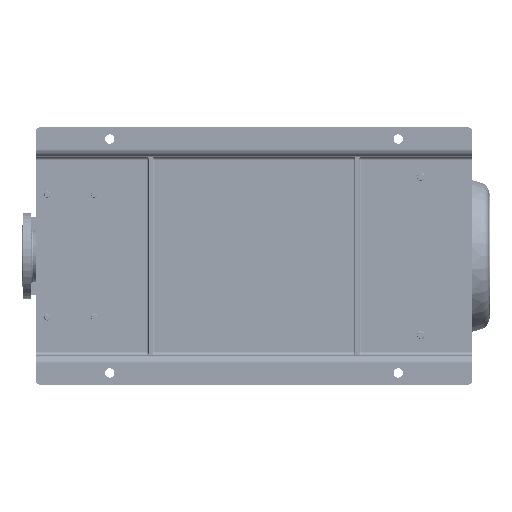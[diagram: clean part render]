
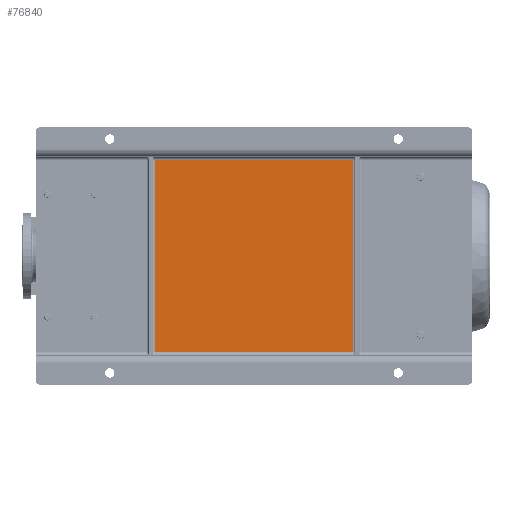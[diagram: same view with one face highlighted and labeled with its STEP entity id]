
A CAD part, front view. The second image highlights one B-rep face of the part: STEP entity #76840.
In plain terms, the highlighted planar face has unit normal (0, -1, 0).
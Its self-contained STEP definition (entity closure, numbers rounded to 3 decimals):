
#9123 = VECTOR ( 'NONE', #111643, 1000. ) ;
#11621 = CARTESIAN_POINT ( 'NONE',  ( 75., 65., -1120. ) ) ;
#12201 = LINE ( 'NONE', #170056, #105446 ) ;
#18512 = ORIENTED_EDGE ( 'NONE', *, *, #32336, .T. ) ;
#32336 = EDGE_CURVE ( 'NONE', #63296, #82309, #86105, .T. ) ;
#33550 = ORIENTED_EDGE ( 'NONE', *, *, #123245, .T. ) ;
#42282 = AXIS2_PLACEMENT_3D ( 'NONE', #11621, #131935, #158970 ) ;
#44241 = CARTESIAN_POINT ( 'NONE',  ( 75., 65., -305. ) ) ;
#45932 = CARTESIAN_POINT ( 'NONE',  ( 575., 65., -300. ) ) ;
#50688 = ORIENTED_EDGE ( 'NONE', *, *, #116484, .T. ) ;
#57592 = LINE ( 'NONE', #76471, #9123 ) ;
#63296 = VERTEX_POINT ( 'NONE', #160991 ) ;
#66199 = ORIENTED_EDGE ( 'NONE', *, *, #145323, .T. ) ;
#76471 = CARTESIAN_POINT ( 'NONE',  ( 75., 65., -815. ) ) ;
#76840 = ADVANCED_FACE ( 'NONE', ( #93575 ), #92703, .T. ) ;
#76953 = CARTESIAN_POINT ( 'NONE',  ( 85., 65., -305. ) ) ;
#77234 = VERTEX_POINT ( 'NONE', #119524 ) ;
#82309 = VERTEX_POINT ( 'NONE', #76953 ) ;
#86105 = LINE ( 'NONE', #44241, #118811 ) ;
#90711 = DIRECTION ( 'NONE',  ( 0., 0., -1. ) ) ;
#92703 = PLANE ( 'NONE',  #42282 ) ;
#93575 = FACE_OUTER_BOUND ( 'NONE', #143320, .T. ) ;
#99185 = DIRECTION ( 'NONE',  ( -1., 0., 0. ) ) ;
#105446 = VECTOR ( 'NONE', #90711, 1000. ) ;
#111643 = DIRECTION ( 'NONE',  ( 1., 0., 0. ) ) ;
#116484 = EDGE_CURVE ( 'NONE', #149487, #63296, #153209, .T. ) ;
#118811 = VECTOR ( 'NONE', #99185, 1000. ) ;
#119524 = CARTESIAN_POINT ( 'NONE',  ( 85., 65., -815. ) ) ;
#123245 = EDGE_CURVE ( 'NONE', #77234, #149487, #57592, .T. ) ;
#131935 = DIRECTION ( 'NONE',  ( 0., -1., 0. ) ) ;
#143320 = EDGE_LOOP ( 'NONE', ( #66199, #33550, #50688, #18512 ) ) ;
#145323 = EDGE_CURVE ( 'NONE', #82309, #77234, #12201, .T. ) ;
#148957 = CARTESIAN_POINT ( 'NONE',  ( 575., 65., -815. ) ) ;
#149487 = VERTEX_POINT ( 'NONE', #148957 ) ;
#152346 = DIRECTION ( 'NONE',  ( 0., 0., 1. ) ) ;
#153209 = LINE ( 'NONE', #45932, #154299 ) ;
#154299 = VECTOR ( 'NONE', #152346, 1000. ) ;
#158970 = DIRECTION ( 'NONE',  ( 0., 0., -1. ) ) ;
#160991 = CARTESIAN_POINT ( 'NONE',  ( 575., 65., -305. ) ) ;
#170056 = CARTESIAN_POINT ( 'NONE',  ( 85., 65., -820. ) ) ;
